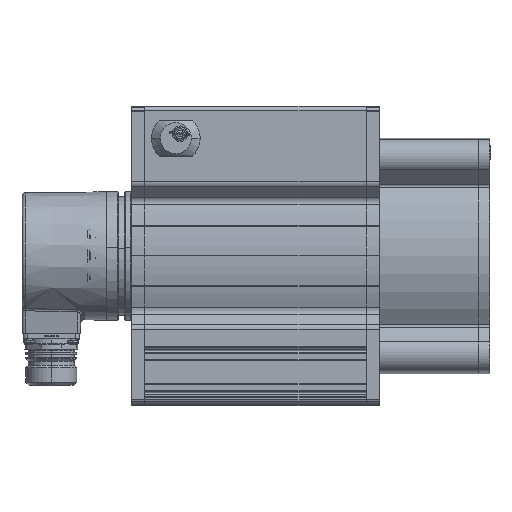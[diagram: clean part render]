
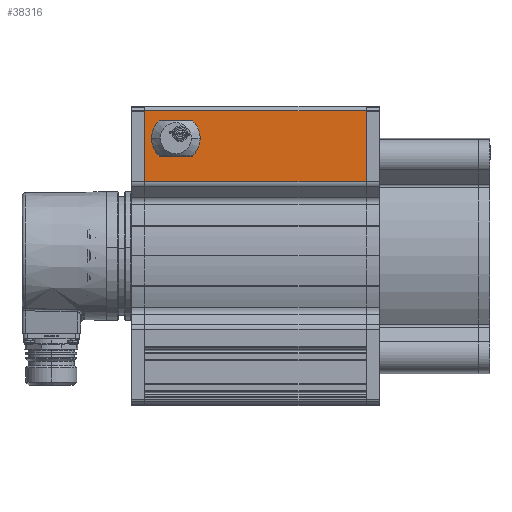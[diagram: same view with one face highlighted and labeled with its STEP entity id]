
A CAD part, top view. The second image highlights one B-rep face of the part: STEP entity #38316.
In plain terms, the highlighted planar face has unit normal (0, 0, 1).
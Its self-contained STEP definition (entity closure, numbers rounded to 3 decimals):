
#31157 = DIRECTION ( 'NONE',  ( -1., 0., 0. ) ) ;
#31158 = DIRECTION ( 'NONE',  ( 0., 0., 1. ) ) ;
#31159 = CARTESIAN_POINT ( 'NONE',  ( -128.75, 53., 67.5 ) ) ;
#31160 = AXIS2_PLACEMENT_3D ( 'NONE', #31159, #31158, #31157 ) ;
#31161 = CIRCLE ( 'NONE', #31160, 1.6 ) ;
#31482 = DIRECTION ( 'NONE',  ( -1., 0., 0. ) ) ;
#31483 = DIRECTION ( 'NONE',  ( 0., 0., 1. ) ) ;
#31484 = CARTESIAN_POINT ( 'NONE',  ( -137., 53., 67.5 ) ) ;
#31485 = AXIS2_PLACEMENT_3D ( 'NONE', #31484, #31483, #31482 ) ;
#31486 = CIRCLE ( 'NONE', #31485, 5.5 ) ;
#31507 = DIRECTION ( 'NONE',  ( -1., 0., 0. ) ) ;
#31508 = DIRECTION ( 'NONE',  ( 0., 0., 1. ) ) ;
#31509 = CARTESIAN_POINT ( 'NONE',  ( -145.25, 53., 67.5 ) ) ;
#31510 = AXIS2_PLACEMENT_3D ( 'NONE', #31509, #31508, #31507 ) ;
#31511 = CIRCLE ( 'NONE', #31510, 1.6 ) ;
#38166 = EDGE_LOOP ( 'NONE', ( #38840, #38849 ) ) ;
#38288 = EDGE_CURVE ( 'NONE', #38289, #38290, #77708, .T. ) ;
#38289 = VERTEX_POINT ( 'NONE', #77701 ) ;
#38290 = VERTEX_POINT ( 'NONE', #77699 ) ;
#38304 = VERTEX_POINT ( 'NONE', #77956 ) ;
#38314 = EDGE_CURVE ( 'NONE', #38304, #38396, #77947, .T. ) ;
#38316 = ADVANCED_FACE ( 'NONE', ( #77942, #77941, #77940, #77938 ), #78278, .F. ) ;
#38334 = EDGE_CURVE ( 'NONE', #38335, #38336, #78276, .T. ) ;
#38335 = VERTEX_POINT ( 'NONE', #78270 ) ;
#38336 = VERTEX_POINT ( 'NONE', #78269 ) ;
#38348 = EDGE_CURVE ( 'NONE', #38349, #38350, #78352, .T. ) ;
#38349 = VERTEX_POINT ( 'NONE', #78346 ) ;
#38350 = VERTEX_POINT ( 'NONE', #78344 ) ;
#38396 = VERTEX_POINT ( 'NONE', #78600 ) ;
#38435 = EDGE_LOOP ( 'NONE', ( #38437, #38441 ) ) ;
#38437 = ORIENTED_EDGE ( 'NONE', *, *, #38288, .F. ) ;
#38441 = ORIENTED_EDGE ( 'NONE', *, *, #48634, .F. ) ;
#38654 = ORIENTED_EDGE ( 'NONE', *, *, #38656, .T. ) ;
#38656 = EDGE_CURVE ( 'NONE', #38304, #38765, #80048, .T. ) ;
#38662 = ORIENTED_EDGE ( 'NONE', *, *, #38314, .F. ) ;
#38664 = EDGE_CURVE ( 'NONE', #38396, #38665, #80049, .T. ) ;
#38665 = VERTEX_POINT ( 'NONE', #79662 ) ;
#38667 = EDGE_CURVE ( 'NONE', #38765, #38665, #79658, .T. ) ;
#38673 = EDGE_LOOP ( 'NONE', ( #38769, #38767, #38662, #38654 ) ) ;
#38675 = ORIENTED_EDGE ( 'NONE', *, *, #38334, .F. ) ;
#38676 = ORIENTED_EDGE ( 'NONE', *, *, #48552, .F. ) ;
#38765 = VERTEX_POINT ( 'NONE', #80116 ) ;
#38767 = ORIENTED_EDGE ( 'NONE', *, *, #38664, .F. ) ;
#38769 = ORIENTED_EDGE ( 'NONE', *, *, #38667, .T. ) ;
#38772 = EDGE_LOOP ( 'NONE', ( #38675, #38676 ) ) ;
#38840 = ORIENTED_EDGE ( 'NONE', *, *, #38348, .F. ) ;
#38849 = ORIENTED_EDGE ( 'NONE', *, *, #48609, .F. ) ;
#48552 = EDGE_CURVE ( 'NONE', #38336, #38335, #31161, .T. ) ;
#48609 = EDGE_CURVE ( 'NONE', #38350, #38349, #31511, .T. ) ;
#48634 = EDGE_CURVE ( 'NONE', #38290, #38289, #31486, .T. ) ;
#77699 = CARTESIAN_POINT ( 'NONE',  ( -131.5, 53., 67.5 ) ) ;
#77701 = CARTESIAN_POINT ( 'NONE',  ( -142.5, 53., 67.5 ) ) ;
#77702 = DIRECTION ( 'NONE',  ( -1., 0., 0. ) ) ;
#77704 = DIRECTION ( 'NONE',  ( 0., 0., 1. ) ) ;
#77705 = CARTESIAN_POINT ( 'NONE',  ( -137., 53., 67.5 ) ) ;
#77706 = AXIS2_PLACEMENT_3D ( 'NONE', #77705, #77704, #77702 ) ;
#77708 = CIRCLE ( 'NONE', #77706, 5.5 ) ;
#77938 = FACE_BOUND ( 'NONE', #38772, .T. ) ;
#77940 = FACE_OUTER_BOUND ( 'NONE', #38673, .T. ) ;
#77941 = FACE_BOUND ( 'NONE', #38166, .T. ) ;
#77942 = FACE_BOUND ( 'NONE', #38435, .T. ) ;
#77943 = DIRECTION ( 'NONE',  ( -1., 0., 0. ) ) ;
#77944 = VECTOR ( 'NONE', #77943, 1000. ) ;
#77945 = CARTESIAN_POINT ( 'NONE',  ( -151., 33.387, 67.5 ) ) ;
#77947 = LINE ( 'NONE', #77945, #77944 ) ;
#77956 = CARTESIAN_POINT ( 'NONE',  ( -51., 33.387, 67.5 ) ) ;
#78269 = CARTESIAN_POINT ( 'NONE',  ( -127.15, 53., 67.5 ) ) ;
#78270 = CARTESIAN_POINT ( 'NONE',  ( -130.35, 53., 67.5 ) ) ;
#78272 = DIRECTION ( 'NONE',  ( -1., 0., 0. ) ) ;
#78273 = DIRECTION ( 'NONE',  ( 0., 0., 1. ) ) ;
#78274 = CARTESIAN_POINT ( 'NONE',  ( -128.75, 53., 67.5 ) ) ;
#78275 = AXIS2_PLACEMENT_3D ( 'NONE', #78274, #78273, #78272 ) ;
#78276 = CIRCLE ( 'NONE', #78275, 1.6 ) ;
#78278 = PLANE ( 'NONE',  #78539 ) ;
#78344 = CARTESIAN_POINT ( 'NONE',  ( -143.65, 53., 67.5 ) ) ;
#78346 = CARTESIAN_POINT ( 'NONE',  ( -146.85, 53., 67.5 ) ) ;
#78347 = DIRECTION ( 'NONE',  ( -1., 0., 0. ) ) ;
#78348 = DIRECTION ( 'NONE',  ( 0., 0., 1. ) ) ;
#78349 = CARTESIAN_POINT ( 'NONE',  ( -145.25, 53., 67.5 ) ) ;
#78350 = AXIS2_PLACEMENT_3D ( 'NONE', #78349, #78348, #78347 ) ;
#78352 = CIRCLE ( 'NONE', #78350, 1.6 ) ;
#78428 = DIRECTION ( 'NONE',  ( -1., 0., 0. ) ) ;
#78430 = DIRECTION ( 'NONE',  ( 0., 0., -1. ) ) ;
#78538 = CARTESIAN_POINT ( 'NONE',  ( -151., 33.387, 67.5 ) ) ;
#78539 = AXIS2_PLACEMENT_3D ( 'NONE', #78538, #78430, #78428 ) ;
#78600 = CARTESIAN_POINT ( 'NONE',  ( -151., 33.387, 67.5 ) ) ;
#79653 = DIRECTION ( 'NONE',  ( -1., 0., 0. ) ) ;
#79655 = VECTOR ( 'NONE', #79653, 1000. ) ;
#79656 = CARTESIAN_POINT ( 'NONE',  ( -151., 65.528, 67.5 ) ) ;
#79658 = LINE ( 'NONE', #79656, #79655 ) ;
#79662 = CARTESIAN_POINT ( 'NONE',  ( -151., 65.528, 67.5 ) ) ;
#79664 = DIRECTION ( 'NONE',  ( 0., 1., 0. ) ) ;
#79666 = VECTOR ( 'NONE', #79664, 1000. ) ;
#79667 = CARTESIAN_POINT ( 'NONE',  ( -151., 66.39, 67.5 ) ) ;
#80043 = DIRECTION ( 'NONE',  ( 0., 1., 0. ) ) ;
#80045 = VECTOR ( 'NONE', #80043, 1000. ) ;
#80047 = CARTESIAN_POINT ( 'NONE',  ( -51., 33.387, 67.5 ) ) ;
#80048 = LINE ( 'NONE', #80047, #80045 ) ;
#80049 = LINE ( 'NONE', #79667, #79666 ) ;
#80116 = CARTESIAN_POINT ( 'NONE',  ( -51., 65.528, 67.5 ) ) ;
